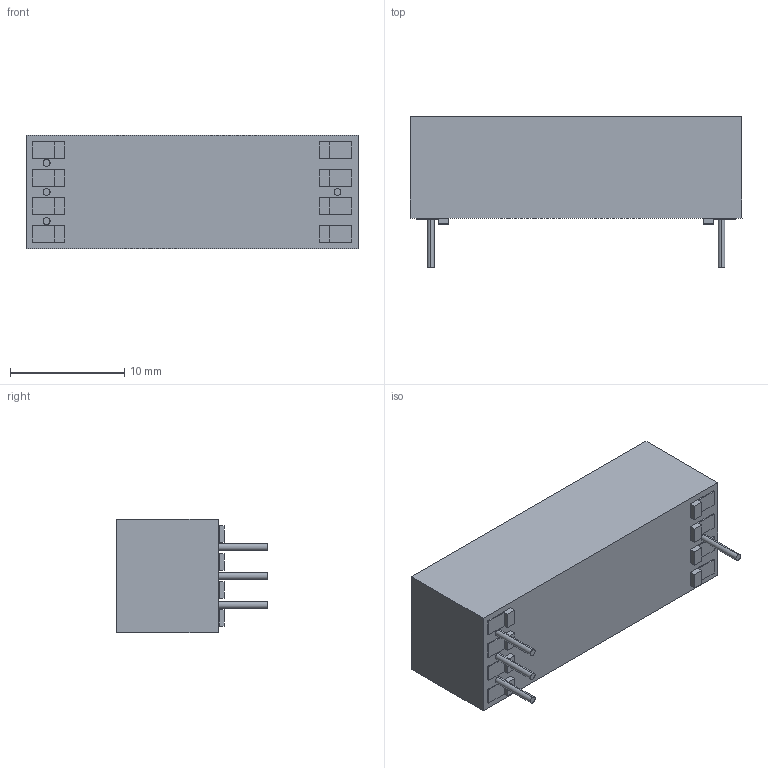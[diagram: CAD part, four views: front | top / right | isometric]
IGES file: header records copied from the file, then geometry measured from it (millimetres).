
Start section: SolidWorks IGES file using analytic representation for surfaces
Global section: file name: T:\Relays in Solidworks\Batch 4\85-1-A.IGS; native system: SolidWorks 2009; preprocessor: SolidWorks 2009; author: alex.leming; date: 100629.162414; units: millimetre
Bounding box: 29 x 13.2 x 9.9 mm (x, y, z)
Surface area: 1320 mm2 (no closed solid volume)
Topology: 0 solids, 0 shells, 702 faces, 6967 edges, 6967 vertices
Faces by surface type: bspline 694, revolution 8
